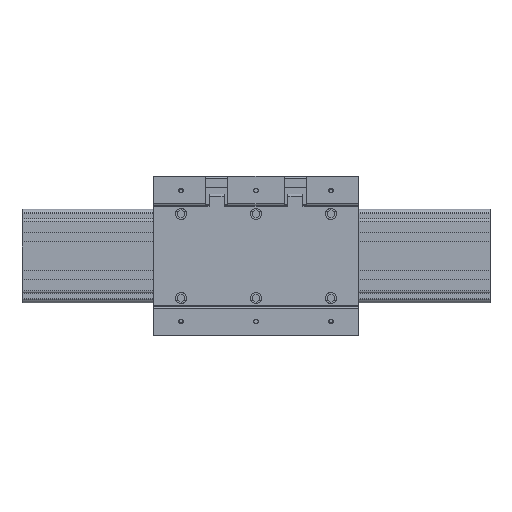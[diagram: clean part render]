
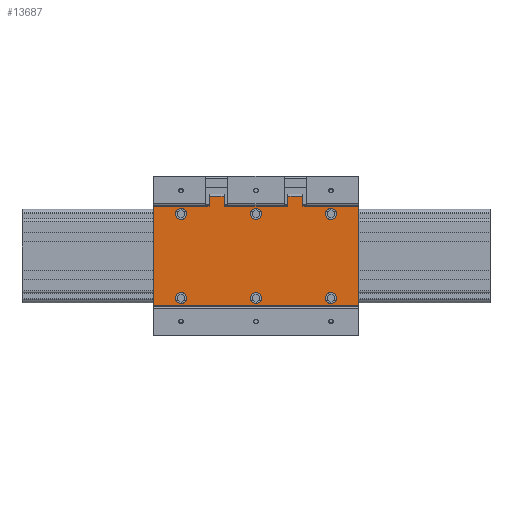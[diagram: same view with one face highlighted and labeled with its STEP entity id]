
A CAD part, top view. The second image highlights one B-rep face of the part: STEP entity #13687.
In plain terms, the highlighted planar face has unit normal (0, 0, 1).
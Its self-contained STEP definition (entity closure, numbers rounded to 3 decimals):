
#7722=CARTESIAN_POINT('',(184.,-45.0,28.6));
#7723=VERTEX_POINT('',#7722);
#7724=CARTESIAN_POINT('',(190.0,-45.0,28.6));
#7725=DIRECTION('',(0.0,0.0,-1.0));
#7726=DIRECTION('',(-1.0,0.0,0.0));
#7727=AXIS2_PLACEMENT_3D('',#7724,#7725,#7726);
#7728=CIRCLE('',#7727,6.);
#7729=EDGE_CURVE('',#7723,#7723,#7728,.T.);
#7818=CARTESIAN_POINT('',(104.0,-45.0,28.6));
#7819=VERTEX_POINT('',#7818);
#7820=CARTESIAN_POINT('',(110.0,-45.0,28.6));
#7821=DIRECTION('',(0.0,0.0,-1.0));
#7822=DIRECTION('',(-1.0,0.0,0.0));
#7823=AXIS2_PLACEMENT_3D('',#7820,#7821,#7822);
#7824=CIRCLE('',#7823,6.);
#7825=EDGE_CURVE('',#7819,#7819,#7824,.T.);
#7914=CARTESIAN_POINT('',(24.,-45.0,28.6));
#7915=VERTEX_POINT('',#7914);
#7916=CARTESIAN_POINT('',(30.0,-45.0,28.6));
#7917=DIRECTION('',(0.0,0.0,-1.0));
#7918=DIRECTION('',(-1.0,0.0,0.0));
#7919=AXIS2_PLACEMENT_3D('',#7916,#7917,#7918);
#7920=CIRCLE('',#7919,6.);
#7921=EDGE_CURVE('',#7915,#7915,#7920,.T.);
#8010=CARTESIAN_POINT('',(184.,45.0,28.6));
#8011=VERTEX_POINT('',#8010);
#8012=CARTESIAN_POINT('',(190.0,45.0,28.6));
#8013=DIRECTION('',(0.0,0.0,-1.0));
#8014=DIRECTION('',(-1.0,0.0,0.0));
#8015=AXIS2_PLACEMENT_3D('',#8012,#8013,#8014);
#8016=CIRCLE('',#8015,6.);
#8017=EDGE_CURVE('',#8011,#8011,#8016,.T.);
#8106=CARTESIAN_POINT('',(104.0,45.0,28.6));
#8107=VERTEX_POINT('',#8106);
#8108=CARTESIAN_POINT('',(110.0,45.0,28.6));
#8109=DIRECTION('',(0.0,0.0,-1.0));
#8110=DIRECTION('',(-1.0,0.0,0.0));
#8111=AXIS2_PLACEMENT_3D('',#8108,#8109,#8110);
#8112=CIRCLE('',#8111,6.);
#8113=EDGE_CURVE('',#8107,#8107,#8112,.T.);
#8388=CARTESIAN_POINT('',(24.,45.0,28.6));
#8389=VERTEX_POINT('',#8388);
#8390=CARTESIAN_POINT('',(30.,45.0,28.6));
#8391=DIRECTION('',(0.0,0.0,-1.0));
#8392=DIRECTION('',(-1.0,0.0,0.0));
#8393=AXIS2_PLACEMENT_3D('',#8390,#8391,#8392);
#8394=CIRCLE('',#8393,6.);
#8395=EDGE_CURVE('',#8389,#8389,#8394,.T.);
#12093=CARTESIAN_POINT('',(144.0,53.,28.6));
#12094=VERTEX_POINT('',#12093);
#12101=CARTESIAN_POINT('',(144.0,64.,28.6));
#12102=VERTEX_POINT('',#12101);
#12103=CARTESIAN_POINT('',(144.0,64.,28.6));
#12104=DIRECTION('',(0.0,-1.0,0.0));
#12105=VECTOR('',#12104,11.);
#12106=LINE('',#12103,#12105);
#12107=EDGE_CURVE('',#12102,#12094,#12106,.T.);
#12140=CARTESIAN_POINT('',(160.,64.,28.6));
#12141=VERTEX_POINT('',#12140);
#12158=CARTESIAN_POINT('',(160.,64.,28.6));
#12159=DIRECTION('',(-1.0,0.0,0.0));
#12160=VECTOR('',#12159,16.);
#12161=LINE('',#12158,#12160);
#12162=EDGE_CURVE('',#12141,#12102,#12161,.T.);
#12282=CARTESIAN_POINT('',(160.,53.,28.6));
#12283=VERTEX_POINT('',#12282);
#12284=CARTESIAN_POINT('',(160.,53.,28.6));
#12285=DIRECTION('',(0.0,1.0,0.0));
#12286=VECTOR('',#12285,11.);
#12287=LINE('',#12284,#12286);
#12288=EDGE_CURVE('',#12283,#12141,#12287,.T.);
#12313=CARTESIAN_POINT('',(140.,53.,28.6));
#12314=VERTEX_POINT('',#12313);
#12321=CARTESIAN_POINT('',(140.,53.,28.6));
#12322=DIRECTION('',(1.0,0.0,0.0));
#12323=VECTOR('',#12322,4.);
#12324=LINE('',#12321,#12323);
#12325=EDGE_CURVE('',#12314,#12094,#12324,.T.);
#12336=CARTESIAN_POINT('',(164.,53.,28.6));
#12337=VERTEX_POINT('',#12336);
#12338=CARTESIAN_POINT('',(160.,53.,28.6));
#12339=DIRECTION('',(1.0,0.0,0.0));
#12340=VECTOR('',#12339,4.);
#12341=LINE('',#12338,#12340);
#12342=EDGE_CURVE('',#12283,#12337,#12341,.T.);
#12549=CARTESIAN_POINT('',(220.0,53.,28.6));
#12550=VERTEX_POINT('',#12549);
#12551=CARTESIAN_POINT('',(164.,53.,28.6));
#12552=DIRECTION('',(1.0,0.0,0.0));
#12553=VECTOR('',#12552,56.);
#12554=LINE('',#12551,#12553);
#12555=EDGE_CURVE('',#12337,#12550,#12554,.T.);
#12589=CARTESIAN_POINT('',(80.,53.,28.6));
#12590=VERTEX_POINT('',#12589);
#12598=CARTESIAN_POINT('',(80.,53.,28.6));
#12599=DIRECTION('',(1.0,0.0,0.0));
#12600=VECTOR('',#12599,60.);
#12601=LINE('',#12598,#12600);
#12602=EDGE_CURVE('',#12590,#12314,#12601,.T.);
#13116=CARTESIAN_POINT('',(60.,53.,28.6));
#13117=VERTEX_POINT('',#13116);
#13124=CARTESIAN_POINT('',(60.,64.,28.6));
#13125=VERTEX_POINT('',#13124);
#13126=CARTESIAN_POINT('',(60.,64.,28.6));
#13127=DIRECTION('',(0.0,-1.0,0.0));
#13128=VECTOR('',#13127,11.);
#13129=LINE('',#13126,#13128);
#13130=EDGE_CURVE('',#13125,#13117,#13129,.T.);
#13163=CARTESIAN_POINT('',(76.,64.,28.6));
#13164=VERTEX_POINT('',#13163);
#13181=CARTESIAN_POINT('',(76.,64.,28.6));
#13182=DIRECTION('',(-1.0,0.0,0.0));
#13183=VECTOR('',#13182,16.);
#13184=LINE('',#13181,#13183);
#13185=EDGE_CURVE('',#13164,#13125,#13184,.T.);
#13291=CARTESIAN_POINT('',(76.,53.,28.6));
#13292=VERTEX_POINT('',#13291);
#13293=CARTESIAN_POINT('',(76.,53.,28.6));
#13294=DIRECTION('',(0.0,1.0,0.0));
#13295=VECTOR('',#13294,11.);
#13296=LINE('',#13293,#13295);
#13297=EDGE_CURVE('',#13292,#13164,#13296,.T.);
#13315=CARTESIAN_POINT('',(56.,53.,28.6));
#13316=VERTEX_POINT('',#13315);
#13323=CARTESIAN_POINT('',(56.,53.,28.6));
#13324=DIRECTION('',(1.0,0.0,0.0));
#13325=VECTOR('',#13324,4.);
#13326=LINE('',#13323,#13325);
#13327=EDGE_CURVE('',#13316,#13117,#13326,.T.);
#13338=CARTESIAN_POINT('',(76.,53.,28.6));
#13339=DIRECTION('',(1.0,0.0,0.0));
#13340=VECTOR('',#13339,4.);
#13341=LINE('',#13338,#13340);
#13342=EDGE_CURVE('',#13292,#12590,#13341,.T.);
#13601=CARTESIAN_POINT('',(220.0,-53.,28.6));
#13602=VERTEX_POINT('',#13601);
#13610=CARTESIAN_POINT('',(0.0,-53.,28.6));
#13611=VERTEX_POINT('',#13610);
#13612=CARTESIAN_POINT('',(0.0,-53.,28.6));
#13613=DIRECTION('',(1.0,0.0,0.0));
#13614=VECTOR('',#13613,220.0);
#13615=LINE('',#13612,#13614);
#13616=EDGE_CURVE('',#13611,#13602,#13615,.T.);
#13629=CARTESIAN_POINT('',(0.0,-53.,28.6));
#13630=DIRECTION('',(0.0,0.0,1.0));
#13631=DIRECTION('',(1.0,0.0,0.0));
#13632=AXIS2_PLACEMENT_3D('',#13629,#13630,#13631);
#13633=PLANE('',#13632);
#13634=CARTESIAN_POINT('',(220.0,-53.,28.6));
#13635=DIRECTION('',(0.0,1.0,0.0));
#13636=VECTOR('',#13635,106.);
#13637=LINE('',#13634,#13636);
#13638=EDGE_CURVE('',#13602,#12550,#13637,.T.);
#13639=ORIENTED_EDGE('',*,*,#13638,.T.);
#13640=ORIENTED_EDGE('',*,*,#12555,.F.);
#13641=ORIENTED_EDGE('',*,*,#12342,.F.);
#13642=ORIENTED_EDGE('',*,*,#12288,.T.);
#13643=ORIENTED_EDGE('',*,*,#12162,.T.);
#13644=ORIENTED_EDGE('',*,*,#12107,.T.);
#13645=ORIENTED_EDGE('',*,*,#12325,.F.);
#13646=ORIENTED_EDGE('',*,*,#12602,.F.);
#13647=ORIENTED_EDGE('',*,*,#13342,.F.);
#13648=ORIENTED_EDGE('',*,*,#13297,.T.);
#13649=ORIENTED_EDGE('',*,*,#13185,.T.);
#13650=ORIENTED_EDGE('',*,*,#13130,.T.);
#13651=ORIENTED_EDGE('',*,*,#13327,.F.);
#13652=CARTESIAN_POINT('',(0.0,53.,28.6));
#13653=VERTEX_POINT('',#13652);
#13654=CARTESIAN_POINT('',(0.0,53.,28.6));
#13655=DIRECTION('',(1.0,0.0,0.0));
#13656=VECTOR('',#13655,56.);
#13657=LINE('',#13654,#13656);
#13658=EDGE_CURVE('',#13653,#13316,#13657,.T.);
#13659=ORIENTED_EDGE('',*,*,#13658,.F.);
#13660=CARTESIAN_POINT('',(0.0,53.,28.6));
#13661=DIRECTION('',(0.0,-1.0,0.0));
#13662=VECTOR('',#13661,106.);
#13663=LINE('',#13660,#13662);
#13664=EDGE_CURVE('',#13653,#13611,#13663,.T.);
#13665=ORIENTED_EDGE('',*,*,#13664,.T.);
#13666=ORIENTED_EDGE('',*,*,#13616,.T.);
#13667=EDGE_LOOP('',(#13639,#13640,#13641,#13642,#13643,#13644,#13645,#13646,#13647,#13648,#13649,#13650,#13651,#13659,#13665,#13666));
#13668=FACE_OUTER_BOUND('',#13667,.T.);
#13669=ORIENTED_EDGE('',*,*,#7729,.T.);
#13670=EDGE_LOOP('',(#13669));
#13671=FACE_BOUND('',#13670,.T.);
#13672=ORIENTED_EDGE('',*,*,#7825,.T.);
#13673=EDGE_LOOP('',(#13672));
#13674=FACE_BOUND('',#13673,.T.);
#13675=ORIENTED_EDGE('',*,*,#7921,.T.);
#13676=EDGE_LOOP('',(#13675));
#13677=FACE_BOUND('',#13676,.T.);
#13678=ORIENTED_EDGE('',*,*,#8017,.T.);
#13679=EDGE_LOOP('',(#13678));
#13680=FACE_BOUND('',#13679,.T.);
#13681=ORIENTED_EDGE('',*,*,#8113,.T.);
#13682=EDGE_LOOP('',(#13681));
#13683=FACE_BOUND('',#13682,.T.);
#13684=ORIENTED_EDGE('',*,*,#8395,.T.);
#13685=EDGE_LOOP('',(#13684));
#13686=FACE_BOUND('',#13685,.T.);
#13687=ADVANCED_FACE('',(#13668,#13671,#13674,#13677,#13680,#13683,#13686),#13633,.T.);
